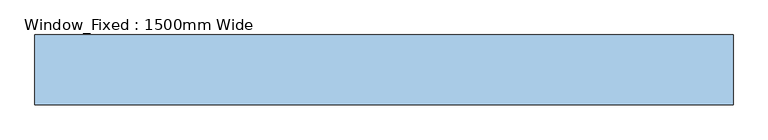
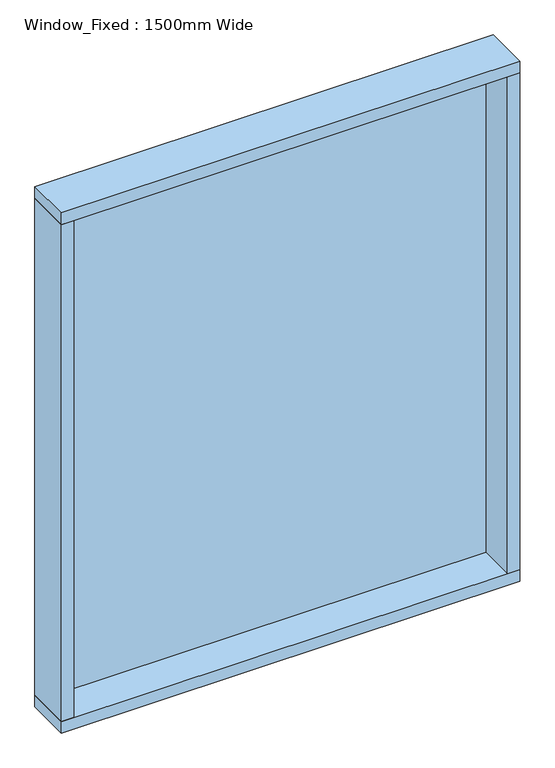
"""IFC4 building model written with IfcOpenShell, lengths in millimetres: window geometry, Window_Fixed : 1500mm Wide."""

from ifc_helpers import new_model, si_unit, frame, origin, place, context, project, spatial, polyline, outline, extrude, source, transform, mapped, element, save


def window_fixed_1500mm_wide_9b338267(model_context):
    return source(origin(), model_context, "Body", "SweptSolid", [
        extrude(outline(polyline([(710.0, 120.0), (710.0, 108.0), (-710.0, 108.0), (-710.0, 120.0), (710.0, 120.0)])), frame((0.0, 0.0, 290.0), z_axis=(0.0, 0.0, 1.0), x_axis=(1.0, 0.0, 0.0)), (0.0, 0.0, 1.0), 1720.0),
        extrude(outline(polyline([(750.0, 135.0), (750.0, -15.0), (-750.0, -15.0), (-750.0, 135.0), (750.0, 135.0)])), frame((0.0, 0.0, 2010.0), z_axis=(0.0, 0.0, 1.0), x_axis=(1.0, 0.0, 0.0)), (0.0, 0.0, 1.0), 40.0),
        extrude(outline(polyline([(750.0, 135.0), (750.0, -15.0), (-750.0, -15.0), (-750.0, 135.0), (750.0, 135.0)])), frame((0.0, 0.0, 250.0), z_axis=(0.0, 0.0, 1.0), x_axis=(1.0, 0.0, 0.0)), (0.0, 0.0, 1.0), 40.0),
        extrude(outline(polyline([(-710.0, -15.0), (-750.0, -15.0), (-750.0, 135.0), (-710.0, 135.0), (-710.0, -15.0)])), frame((0.0, 0.0, 290.0), z_axis=(0.0, 0.0, 1.0), x_axis=(1.0, 0.0, 0.0)), (0.0, 0.0, 1.0), 1720.0),
        extrude(outline(polyline([(710.0, -15.0), (710.0, 135.0), (750.0, 135.0), (750.0, -15.0), (710.0, -15.0)])), frame((0.0, 0.0, 290.0), z_axis=(0.0, 0.0, 1.0), x_axis=(1.0, 0.0, 0.0)), (0.0, 0.0, 1.0), 1720.0),
    ])


if __name__ == "__main__":
    model = new_model("IFC4")
    model_context = context("Model", 3, world=origin())
    ifc_project = project(units=[si_unit("LENGTHUNIT", "METRE", prefix="MILLI")], contexts=[model_context])
    site = spatial("IfcSite", under=ifc_project)
    building = spatial("IfcBuilding", under=site)
    placement = place(None, origin())
    window_fixed_1500mm_wide_shape = window_fixed_1500mm_wide_9b338267(model_context)
    element("IfcWindow", 1, ObjectType="Window_Fixed : 1500mm Wide", at=placement, inside=building, context=model_context, shape_type="MappedRepresentation", body=[
        mapped(window_fixed_1500mm_wide_shape, transform((0.0, 0.0, 0.0), x_axis=(1.0, 0.0, 0.0), y_axis=(0.0, 1.0, 0.0), z_axis=(0.0, 0.0, 1.0))),
    ])
    save(model, "model.ifc")
